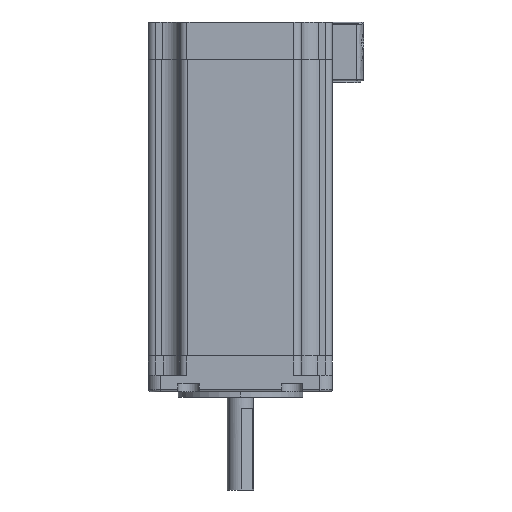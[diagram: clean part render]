
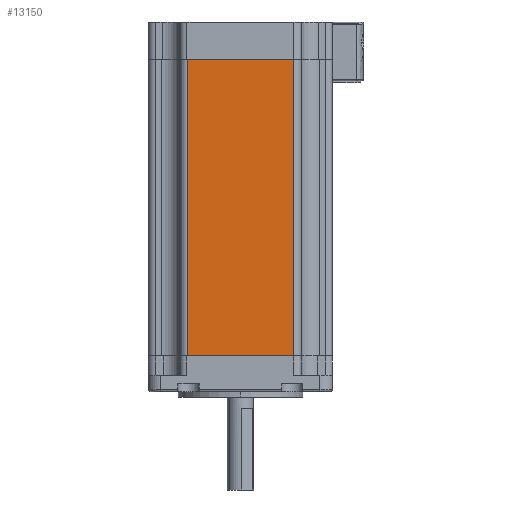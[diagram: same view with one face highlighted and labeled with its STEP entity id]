
A CAD part, left-side view. The second image highlights one B-rep face of the part: STEP entity #13150.
In plain terms, the highlighted planar face has unit normal (-1, 0, 0).
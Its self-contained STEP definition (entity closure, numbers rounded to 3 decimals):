
#558 = LINE ( 'NONE', #691, #2626 ) ;
#691 = CARTESIAN_POINT ( 'NONE',  ( -28.1, 16.279, 45.25 ) ) ;
#1006 = VERTEX_POINT ( 'NONE', #4900 ) ;
#1471 = DIRECTION ( 'NONE',  ( 0., 0., -1. ) ) ;
#1891 = CARTESIAN_POINT ( 'NONE',  ( -28.1, -16.279, 45.25 ) ) ;
#2191 = ORIENTED_EDGE ( 'NONE', *, *, #13386, .T. ) ;
#2626 = VECTOR ( 'NONE', #10792, 1000. ) ;
#3569 = CARTESIAN_POINT ( 'NONE',  ( -28.1, 16.279, 45.25 ) ) ;
#4900 = CARTESIAN_POINT ( 'NONE',  ( -28.1, -16.279, 45.25 ) ) ;
#5017 = FACE_OUTER_BOUND ( 'NONE', #19536, .T. ) ;
#6083 = ORIENTED_EDGE ( 'NONE', *, *, #24367, .F. ) ;
#7632 = VECTOR ( 'NONE', #14658, 1000. ) ;
#7738 = EDGE_CURVE ( 'NONE', #1006, #18383, #17083, .T. ) ;
#8418 = CARTESIAN_POINT ( 'NONE',  ( -28.1, 0., -45.25 ) ) ;
#9551 = DIRECTION ( 'NONE',  ( -1., 0., 0. ) ) ;
#9673 = CARTESIAN_POINT ( 'NONE',  ( -28.1, 0., 45.25 ) ) ;
#9854 = AXIS2_PLACEMENT_3D ( 'NONE', #9673, #9551, #20186 ) ;
#10331 = CARTESIAN_POINT ( 'NONE',  ( -28.1, 16.279, -45.25 ) ) ;
#10792 = DIRECTION ( 'NONE',  ( 0., 0., -1. ) ) ;
#11036 = VERTEX_POINT ( 'NONE', #10331 ) ;
#12804 = CARTESIAN_POINT ( 'NONE',  ( -28.1, 0., 45.25 ) ) ;
#13150 = ADVANCED_FACE ( 'NONE', ( #5017 ), #16079, .T. ) ;
#13386 = EDGE_CURVE ( 'NONE', #18383, #11036, #558, .T. ) ;
#14658 = DIRECTION ( 'NONE',  ( 0., 1., 0. ) ) ;
#16079 = PLANE ( 'NONE',  #9854 ) ;
#16436 = ORIENTED_EDGE ( 'NONE', *, *, #24290, .F. ) ;
#16781 = ORIENTED_EDGE ( 'NONE', *, *, #7738, .T. ) ;
#16795 = LINE ( 'NONE', #1891, #23882 ) ;
#16929 = DIRECTION ( 'NONE',  ( 0., 1., 0. ) ) ;
#17083 = LINE ( 'NONE', #12804, #7632 ) ;
#18383 = VERTEX_POINT ( 'NONE', #3569 ) ;
#19536 = EDGE_LOOP ( 'NONE', ( #6083, #16436, #16781, #2191 ) ) ;
#20186 = DIRECTION ( 'NONE',  ( 0., 0., 1. ) ) ;
#21706 = VERTEX_POINT ( 'NONE', #21981 ) ;
#21981 = CARTESIAN_POINT ( 'NONE',  ( -28.1, -16.279, -45.25 ) ) ;
#23882 = VECTOR ( 'NONE', #1471, 1000. ) ;
#24290 = EDGE_CURVE ( 'NONE', #1006, #21706, #16795, .T. ) ;
#24367 = EDGE_CURVE ( 'NONE', #21706, #11036, #27713, .T. ) ;
#27713 = LINE ( 'NONE', #8418, #27965 ) ;
#27965 = VECTOR ( 'NONE', #16929, 1000. ) ;
